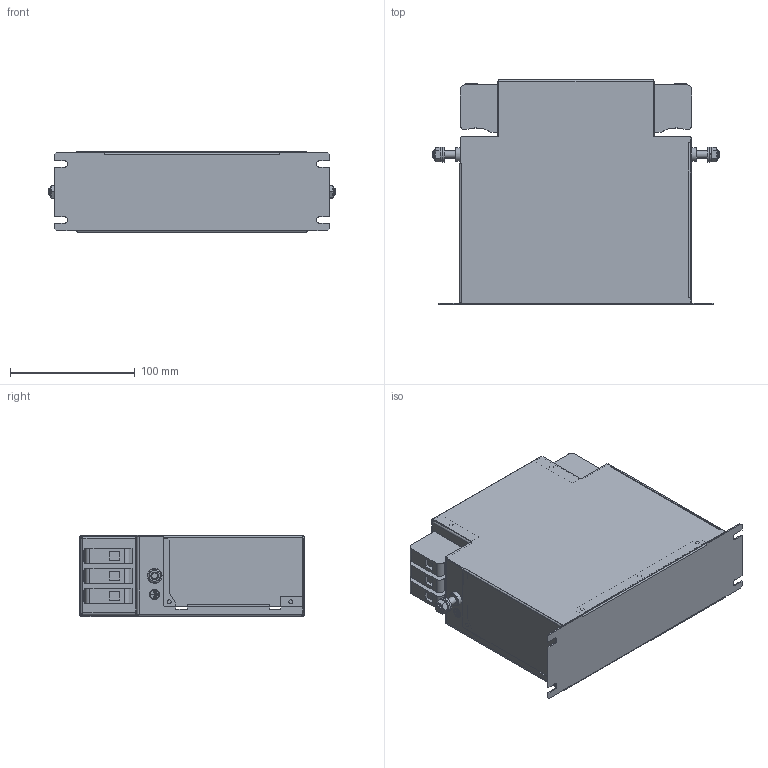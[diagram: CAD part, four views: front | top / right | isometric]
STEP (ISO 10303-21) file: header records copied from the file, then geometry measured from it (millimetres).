
FILE_DESCRIPTION(/* description */ ('raw material description'),/* implementation_level */ '2;1');
FILE_NAME(/* name */ 'C:\Users\Oliver.Volic\OneDrive - Schaffner EMV AG\Projekte\STEP\Wanda\FN3287-50_63-53.stp',/* time_stamp */ '2018-07-02T10:31:24+02:00',/* author */ ('Oliver.Volic'),/* organization */ ('Schaffner EMV AG'),/* preprocessor_version */ 'ST-DEVELOPER v16.5',/* originating_system */ 'Autodesk Inventor 2017',/* authorisation */ '');
FILE_SCHEMA (('AUTOMOTIVE_DESIGN { 1 0 10303 214 3 1 1 }'));
Length unit declared in the file: millimetre
Products named in the file (1): FN3287-50_63-53
Bounding box: 230.4 x 180.05 x 65 mm (x, y, z)
Volume: 180494.5 mm3; surface area: 242223.3 mm2
Topology: 1 solids, 5 shells, 681 faces, 1664 edges, 1039 vertices
Faces by surface type: plane 484, cylinder 133, cone 30, bspline 25, torus 9
Full cylindrical faces by diameter (mm): 1 x6, 3.3 x13, 5.459 x2, 6 x4, 6.4 x2, 7 x2, 8 x2, 8.7 x6, 9 x6, 11.05 x2, 12 x2
Entity records: 20402 total; most frequent: CARTESIAN_POINT 4060, ORIENTED_EDGE 3160, DIRECTION 3111, EDGE_CURVE 1574, LINE 1155, VECTOR 1155, VERTEX_POINT 1023, AXIS2_PLACEMENT_3D 978
